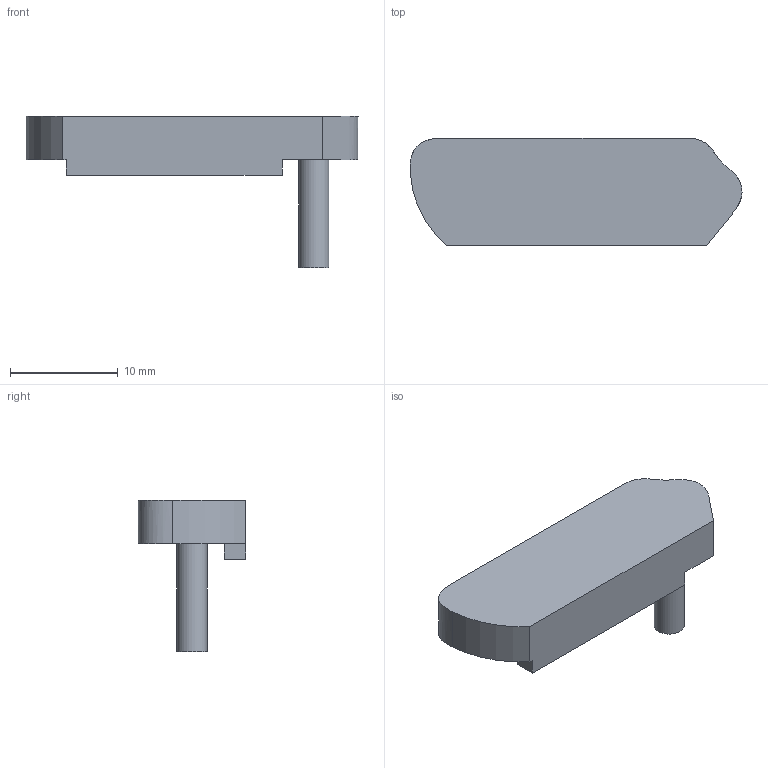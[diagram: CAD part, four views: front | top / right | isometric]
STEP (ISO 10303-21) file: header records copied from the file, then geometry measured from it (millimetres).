
FILE_DESCRIPTION(('STEP AP242 Edition 2','STEP AP242 Edition 2''CAx-IF Rec.Pracs.---Representation and Presentation of Product Manufacturing Information (PMI)---4.0---2014-10-13','STEP AP242 Edition 2''CAx-IF Rec.Pracs.---Representation and Presentation of Product Manufacturing Information (PMI)---4.0---2014-10-13''CAx-IF Rec.Pracs.---3D Tessellated Geometry---0.4---2014-09-14','STEP AP242 Edition 2''CAx-IF Rec.Pracs.---Representation and Presentation of Product Manufacturing Information (PMI)---4.0---2014-10-13''CAx-IF Rec.Pracs.---3D Tessellated Geometry---0.4---2014-09-14''2;1','STEP AP242 Edition 2''CAx-IF Rec.Pracs.---Representation and Presentation of Product Manufacturing Information (PMI)---4.0---2014-10-13''CAx-IF Rec.Pracs.---3D Tessellated Geometry---0.4---2014-09-14''2;1''CAx-IF Rec.Pracs.---User Defined Attributes---1.5---2016-08-15'),'2;1');
FILE_NAME('/vol/tmp/translate-17459121042689540201/Draw Bot V3 - Left Limit Switch Cover.step','2026-03-21T23:30:54',(''),(''),'ST-DEVELOPER v20','ONSHAPE BY PTC INC, 1.212',' ');
FILE_SCHEMA(('AP242_MANAGED_MODEL_BASED_3D_ENGINEERING_MIM_LF { 1 0 10303 442 3 1 4 }'));
Length unit declared in the file: millimetre
Products named in the file (1): Left Limit Switch Cover
Bounding box: 30.77 x 10 x 14 mm (x, y, z)
Volume: 1254 mm3; surface area: 1012.4 mm2
Topology: 1 solids, 1 shells, 16 faces, 39 edges, 26 vertices
Faces by surface type: plane 10, cylinder 3, bspline 3
Full cylindrical faces by diameter (mm): 2.8 x1
Entity records: 510 total; most frequent: CARTESIAN_POINT 138, ORIENTED_EDGE 76, DIRECTION 60, EDGE_CURVE 38, VERTEX_POINT 26, LINE 20, VECTOR 20, AXIS2_PLACEMENT_3D 20
